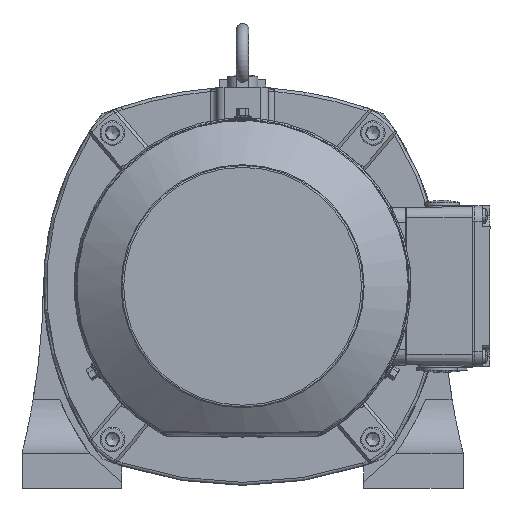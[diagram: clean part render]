
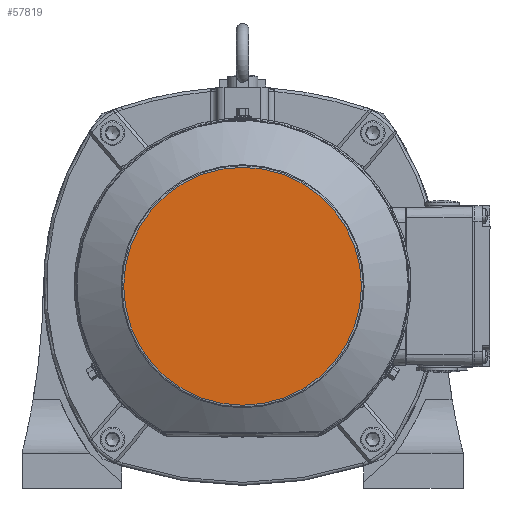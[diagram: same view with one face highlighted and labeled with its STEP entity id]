
A CAD part, left-side view. The second image highlights one B-rep face of the part: STEP entity #57819.
In plain terms, the highlighted planar face has unit normal (-1, 0, 0).
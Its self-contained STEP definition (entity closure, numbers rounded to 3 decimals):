
#2653=PLANE('',#63392);
#14826=FACE_OUTER_BOUND('',#18293,.T.);
#18293=EDGE_LOOP('',(#52134));
#22483=CIRCLE('',#63378,77.635);
#27602=VERTEX_POINT('',#132808);
#35890=EDGE_CURVE('',#27602,#27602,#22483,.T.);
#52134=ORIENTED_EDGE('',*,*,#35890,.T.);
#57819=ADVANCED_FACE('',(#14826),#2653,.F.);
#63378=AXIS2_PLACEMENT_3D('',#132809,#77581,#77582);
#63392=AXIS2_PLACEMENT_3D('',#132870,#77612,#77613);
#77581=DIRECTION('center_axis',(-1.,0.,0.));
#77582=DIRECTION('ref_axis',(0.,-1.,0.));
#77612=DIRECTION('center_axis',(1.,0.,0.));
#77613=DIRECTION('ref_axis',(0.,1.,0.));
#132808=CARTESIAN_POINT('',(-350.074,82.059,0.998));
#132809=CARTESIAN_POINT('Origin',(-350.074,4.425,0.998));
#132870=CARTESIAN_POINT('Origin',(-350.074,4.425,78.633));
